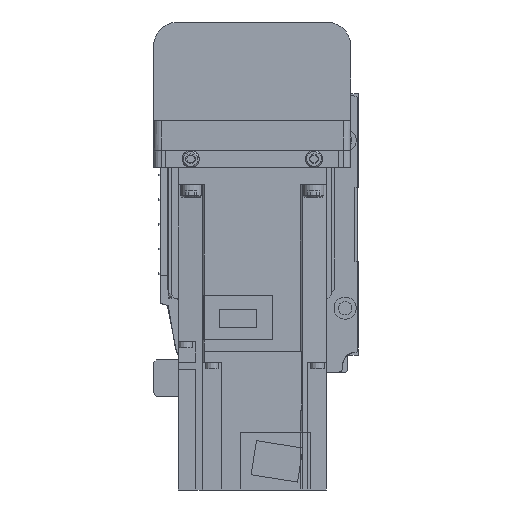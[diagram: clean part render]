
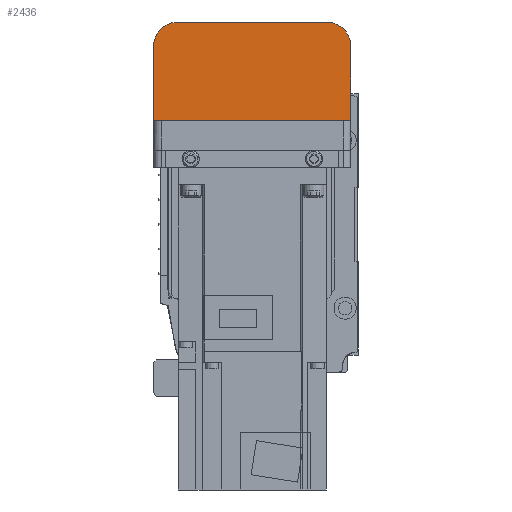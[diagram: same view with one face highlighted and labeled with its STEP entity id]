
A CAD part, left-side view. The second image highlights one B-rep face of the part: STEP entity #2436.
In plain terms, the highlighted planar face has unit normal (-1, 0, 0).
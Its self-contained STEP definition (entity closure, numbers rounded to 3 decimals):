
#2436 = ADVANCED_FACE( '', ( #5042 ), #5043, .F. );
#5042 = FACE_OUTER_BOUND( '', #7626, .T. );
#5043 = PLANE( '', #7627 );
#7626 = EDGE_LOOP( '', ( #14174, #14175, #14176, #14177, #14178, #14179 ) );
#7627 = AXIS2_PLACEMENT_3D( '', #14180, #14181, #14182 );
#14174 = ORIENTED_EDGE( '', *, *, #16598, .F. );
#14175 = ORIENTED_EDGE( '', *, *, #15069, .F. );
#14176 = ORIENTED_EDGE( '', *, *, #15717, .F. );
#14177 = ORIENTED_EDGE( '', *, *, #15884, .F. );
#14178 = ORIENTED_EDGE( '', *, *, #16657, .F. );
#14179 = ORIENTED_EDGE( '', *, *, #16649, .F. );
#14180 = CARTESIAN_POINT( '', ( -192., 37., 7. ) );
#14181 = DIRECTION( '', ( 1., 0., 0. ) );
#14182 = DIRECTION( '', ( 0., 0., -1. ) );
#15069 = EDGE_CURVE( '', #18159, #18161, #18162, .T. );
#15717 = EDGE_CURVE( '', #19189, #18159, #19191, .T. );
#15884 = EDGE_CURVE( '', #19421, #19189, #19423, .T. );
#16598 = EDGE_CURVE( '', #18161, #20373, #20374, .T. );
#16649 = EDGE_CURVE( '', #20373, #20432, #20433, .T. );
#16657 = EDGE_CURVE( '', #20432, #19421, #20442, .T. );
#18159 = VERTEX_POINT( '', #22329 );
#18161 = VERTEX_POINT( '', #22332 );
#18162 = LINE( '', #22333, #22334 );
#19189 = VERTEX_POINT( '', #23710 );
#19191 = CIRCLE( '', #23713, 10. );
#19421 = VERTEX_POINT( '', #24018 );
#19423 = LINE( '', #24021, #24022 );
#20373 = VERTEX_POINT( '', #25316 );
#20374 = LINE( '', #25317, #25318 );
#20432 = VERTEX_POINT( '', #25394 );
#20433 = LINE( '', #25395, #25396 );
#20442 = CIRCLE( '', #25407, 10. );
#22329 = CARTESIAN_POINT( '', ( -192., 40., -42. ) );
#22332 = CARTESIAN_POINT( '', ( -192., 40., -12.1 ) );
#22333 = CARTESIAN_POINT( '', ( -192., 40., -42. ) );
#22334 = VECTOR( '', #26765, 1000. );
#23710 = CARTESIAN_POINT( '', ( -192., 30., -52. ) );
#23713 = AXIS2_PLACEMENT_3D( '', #27560, #27561, #27562 );
#24018 = CARTESIAN_POINT( '', ( -192., -30., -52. ) );
#24021 = CARTESIAN_POINT( '', ( -192., -30., -52. ) );
#24022 = VECTOR( '', #27738, 1000. );
#25316 = CARTESIAN_POINT( '', ( -192., -40., -12.1 ) );
#25317 = CARTESIAN_POINT( '', ( -192., 50., -12.1 ) );
#25318 = VECTOR( '', #28509, 1000. );
#25394 = CARTESIAN_POINT( '', ( -192., -40., -42. ) );
#25395 = CARTESIAN_POINT( '', ( -192., -40., -12.1 ) );
#25396 = VECTOR( '', #28549, 1000. );
#25407 = AXIS2_PLACEMENT_3D( '', #28555, #28556, #28557 );
#26765 = DIRECTION( '', ( 0., 0., 1. ) );
#27560 = CARTESIAN_POINT( '', ( -192., 30., -42. ) );
#27561 = DIRECTION( '', ( 1., 0., 0. ) );
#27562 = DIRECTION( '', ( 0., 0., -1. ) );
#27738 = DIRECTION( '', ( 0., 1., 0. ) );
#28509 = DIRECTION( '', ( 0., -1., 0. ) );
#28549 = DIRECTION( '', ( 0., 0., -1. ) );
#28555 = CARTESIAN_POINT( '', ( -192., -30., -42. ) );
#28556 = DIRECTION( '', ( 1., 0., 0. ) );
#28557 = DIRECTION( '', ( 0., 0., -1. ) );
